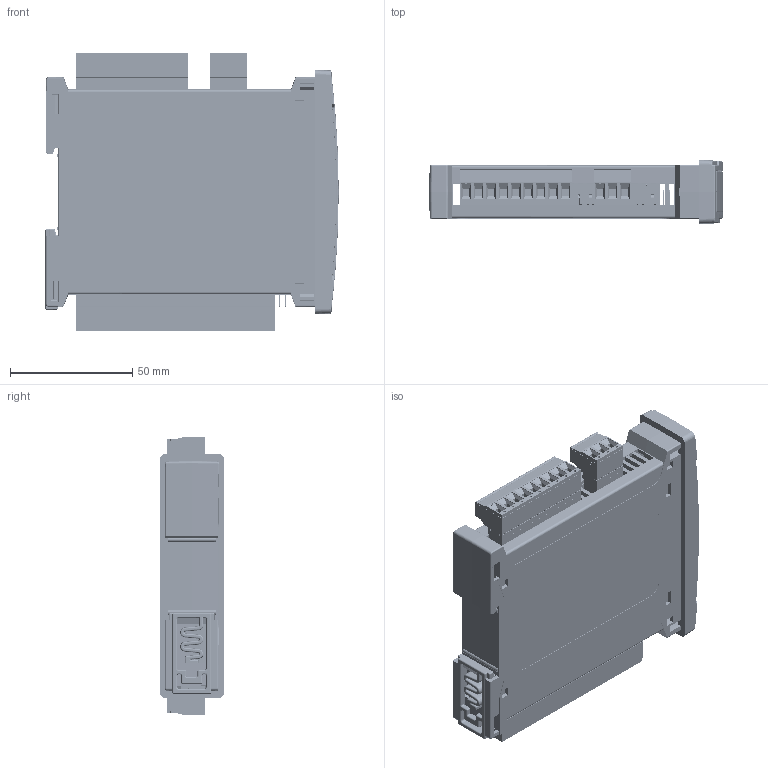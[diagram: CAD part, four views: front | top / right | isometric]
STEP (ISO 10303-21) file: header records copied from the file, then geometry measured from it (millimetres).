
FILE_DESCRIPTION(('STEP AP214'),'1');
FILE_NAME('ETLH.step','2021-11-10T08:42:55',(' '),(' '),'Spatial InterOp 3D',' ',' ');
FILE_SCHEMA(('AUTOMOTIVE_DESIGN { 1 0 10303 214 1 1 1 1 }'));
Length unit declared in the file: metre
Products named in the file (39): 7-segment display; Body; LED; Pin; Display; 7-segment display-1; 7-segment display-2; 7-segment display-3; 7-segment display-4; 7-segment display-5; Display board; Keys; Key; Indicator LED; LED 01; LED 02; LED 03; Indicator LEDs; Indicator LED-1; Indicator LED-2; Indicator LED-3; Indicator LED-4; Indicator LED-5; Board; ETLH weight transmitter 4 channels; Grille left; Component 13; Main board; DIN rail stop; Housing base; Front window; Housing cover (Profibus version); Pin header 16-pole; Terminal block 16-pole; Terminal block 9-pole; Pin header 9-pole; Terminal block 3-pole; Pin header 3-pole; Jumper 2x2
Assembly tree (130 placements, depth 5):
  ETLH weight transmitter 4 channels
    Display board
      Display
        7-segment display
          Body
          LED
          Pin  x10
        7-segment display-1
          Body
          LED
          Pin  x10
        7-segment display-2
          Body
          LED
          Pin  x10
        7-segment display-3
          Body
          LED
          Pin  x10
        7-segment display-4
          Body
          LED
          Pin  x10
        7-segment display-5
          Body
          LED
          Pin  x10
      Keys
        Key  x4
      Indicator LEDs
        Indicator LED
          LED 01
          LED 02
          LED 03
        Indicator LED-1
          LED 01
          LED 02
          LED 03
        Indicator LED-2
          LED 01
          LED 02
          LED 03
        Indicator LED-3
          LED 01
          LED 02
          LED 03
        Indicator LED-4
          LED 01
          LED 02
          LED 03
        Indicator LED-5
          LED 01
          LED 02
          LED 03
      Board
    Grille left
      Component 13  x6
    Main board
    DIN rail stop
    Housing base
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Bounding box: 119.86 x 26 x 113.5 mm (x, y, z)
Volume: 91435.8 mm3; surface area: 121076 mm2
Topology: 116 solids, 116 shells, 8047 faces, 20641 edges, 13188 vertices
Faces by surface type: plane 5491, cylinder 1860, cone 313, torus 232, sphere 86, bspline 65
Entity records: 201876 total; most frequent: CARTESIAN_POINT 38838, DIRECTION 33610, ORIENTED_EDGE 33550, EDGE_CURVE 16775, LINE 11794, VECTOR 11794, AXIS2_PLACEMENT_3D 10908, VERTEX_POINT 10639
